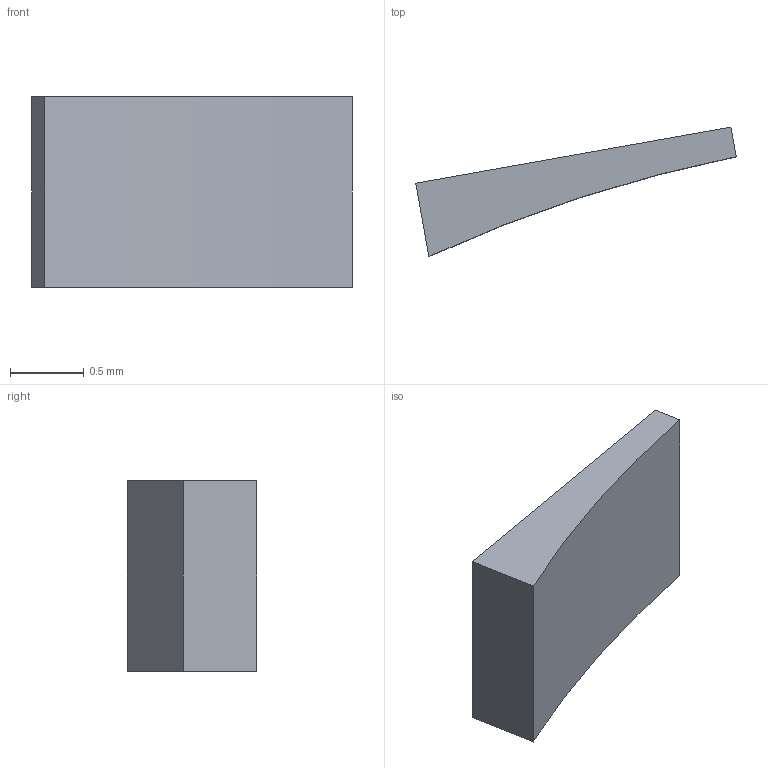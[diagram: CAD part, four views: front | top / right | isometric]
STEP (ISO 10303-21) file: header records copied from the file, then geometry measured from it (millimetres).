
FILE_DESCRIPTION(('FreeCAD Model'),'2;1');
FILE_NAME('Open CASCADE Shape Model','2026-10-23T21:15:57',('FreeCAD'),( 'FreeCAD'),'Open CASCADE STEP processor 7.8','FreeCAD','Unknown');
FILE_SCHEMA(('AUTOMOTIVE_DESIGN { 1 0 10303 214 1 1 1 1 }'));
Length unit declared in the file: millimetre
Products named in the file (1): Open CASCADE STEP translator 7.8 7
Bounding box: 2.17 x 0.88 x 1.29 mm (x, y, z)
Volume: 0.9 mm3; surface area: 7.9 mm2
Topology: 1 solids, 1 shells, 6 faces, 12 edges, 8 vertices
Faces by surface type: plane 5, cylinder 1
Entity records: 168 total; most frequent: DIRECTION 28, CARTESIAN_POINT 27, ORIENTED_EDGE 24, EDGE_CURVE 12, LINE 10, VECTOR 10, AXIS2_PLACEMENT_3D 9, VERTEX_POINT 8
